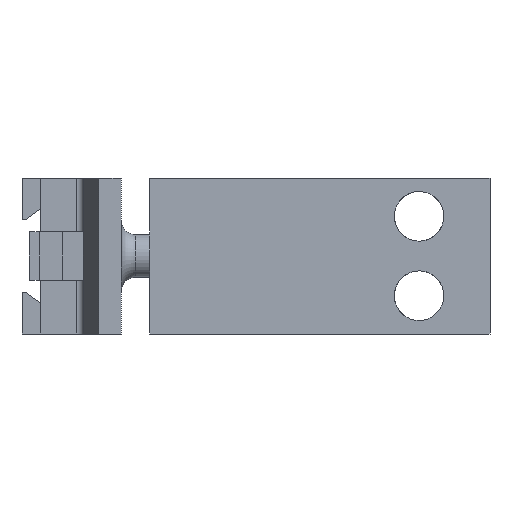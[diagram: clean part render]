
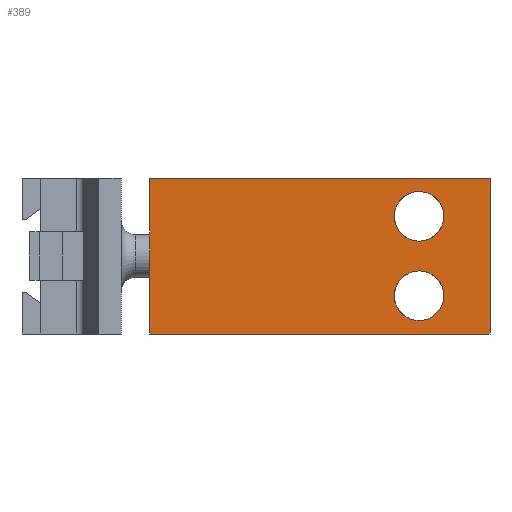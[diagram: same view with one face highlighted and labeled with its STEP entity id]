
A CAD part, left-side view. The second image highlights one B-rep face of the part: STEP entity #389.
In plain terms, the highlighted planar face has unit normal (-1, 0, 0).
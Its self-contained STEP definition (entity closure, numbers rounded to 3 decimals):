
#389 = ADVANCED_FACE( '', ( #644, #645, #646 ), #647, .F. );
#644 = FACE_BOUND( '', #906, .T. );
#645 = FACE_BOUND( '', #907, .T. );
#646 = FACE_OUTER_BOUND( '', #908, .T. );
#647 = PLANE( '', #909 );
#906 = EDGE_LOOP( '', ( #1776 ) );
#907 = EDGE_LOOP( '', ( #1777 ) );
#908 = EDGE_LOOP( '', ( #1778, #1779, #1780, #1781 ) );
#909 = AXIS2_PLACEMENT_3D( '', #1782, #1783, #1784 );
#1776 = ORIENTED_EDGE( '', *, *, #2087, .F. );
#1777 = ORIENTED_EDGE( '', *, *, #2069, .F. );
#1778 = ORIENTED_EDGE( '', *, *, #2080, .T. );
#1779 = ORIENTED_EDGE( '', *, *, #2086, .F. );
#1780 = ORIENTED_EDGE( '', *, *, #2072, .F. );
#1781 = ORIENTED_EDGE( '', *, *, #2088, .T. );
#1782 = CARTESIAN_POINT( '', ( 0., 24., 5.5 ) );
#1783 = DIRECTION( '', ( 1., 0., 0. ) );
#1784 = DIRECTION( '', ( 0., 0., -1. ) );
#2069 = EDGE_CURVE( '', #2521, #2521, #2522, .F. );
#2072 = EDGE_CURVE( '', #2525, #2527, #2528, .T. );
#2080 = EDGE_CURVE( '', #2535, #2541, #2543, .T. );
#2086 = EDGE_CURVE( '', #2527, #2541, #2549, .T. );
#2087 = EDGE_CURVE( '', #2550, #2550, #2551, .F. );
#2088 = EDGE_CURVE( '', #2525, #2535, #2552, .T. );
#2521 = VERTEX_POINT( '', #3265 );
#2522 = CIRCLE( '', #3266, 1.75 );
#2525 = VERTEX_POINT( '', #3269 );
#2527 = VERTEX_POINT( '', #3272 );
#2528 = LINE( '', #3273, #3274 );
#2535 = VERTEX_POINT( '', #3283 );
#2541 = VERTEX_POINT( '', #3291 );
#2543 = LINE( '', #3294, #3295 );
#2549 = LINE( '', #3305, #3306 );
#2550 = VERTEX_POINT( '', #3307 );
#2551 = CIRCLE( '', #3308, 1.75 );
#2552 = LINE( '', #3309, #3310 );
#3265 = CARTESIAN_POINT( '', ( 0., 5., 1.05 ) );
#3266 = AXIS2_PLACEMENT_3D( '', #3689, #3690, #3691 );
#3269 = CARTESIAN_POINT( '', ( 0., 24., 5.5 ) );
#3272 = CARTESIAN_POINT( '', ( 0., 0., 5.5 ) );
#3273 = CARTESIAN_POINT( '', ( 0., 24., 5.5 ) );
#3274 = VECTOR( '', #3696, 1000. );
#3283 = CARTESIAN_POINT( '', ( 0., 24., -5.5 ) );
#3291 = CARTESIAN_POINT( '', ( 0., 0., -5.5 ) );
#3294 = CARTESIAN_POINT( '', ( 0., 24., -5.5 ) );
#3295 = VECTOR( '', #3708, 1000. );
#3305 = CARTESIAN_POINT( '', ( 0., 0., 5.5 ) );
#3306 = VECTOR( '', #3716, 1000. );
#3307 = CARTESIAN_POINT( '', ( 0., 5., -4.55 ) );
#3308 = AXIS2_PLACEMENT_3D( '', #3717, #3718, #3719 );
#3309 = CARTESIAN_POINT( '', ( 0., 24., 5.5 ) );
#3310 = VECTOR( '', #3720, 1000. );
#3689 = CARTESIAN_POINT( '', ( 0., 5., 2.8 ) );
#3690 = DIRECTION( '', ( 1., 0., 0. ) );
#3691 = DIRECTION( '', ( 0., 0., -1. ) );
#3696 = DIRECTION( '', ( 0., -1., 0. ) );
#3708 = DIRECTION( '', ( 0., -1., 0. ) );
#3716 = DIRECTION( '', ( 0., 0., -1. ) );
#3717 = CARTESIAN_POINT( '', ( 0., 5., -2.8 ) );
#3718 = DIRECTION( '', ( 1., 0., 0. ) );
#3719 = DIRECTION( '', ( 0., 0., -1. ) );
#3720 = DIRECTION( '', ( 0., 0., -1. ) );
